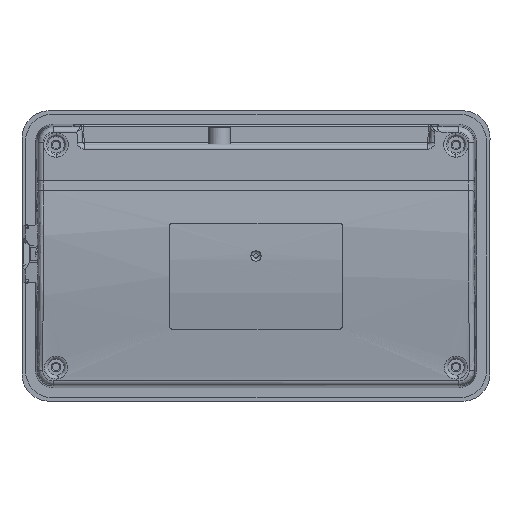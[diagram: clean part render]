
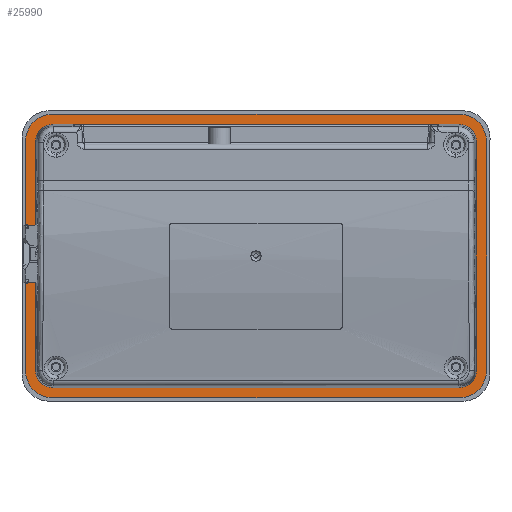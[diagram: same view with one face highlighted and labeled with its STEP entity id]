
A CAD part, front view. The second image highlights one B-rep face of the part: STEP entity #25990.
In plain terms, the highlighted planar face has unit normal (0, -1, 0).
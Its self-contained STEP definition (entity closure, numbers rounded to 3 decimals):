
#348 = EDGE_CURVE ( 'NONE', #1034, #67149, #38106, .T. ) ;
#371 = EDGE_LOOP ( 'NONE', ( #76666, #77568, #55639, #51432, #24178, #65036, #49874, #42457 ) ) ;
#920 = CARTESIAN_POINT ( 'NONE',  ( -61.652, 2.474, 103.5 ) ) ;
#1034 = VERTEX_POINT ( 'NONE', #4322 ) ;
#1400 = ORIENTED_EDGE ( 'NONE', *, *, #5206, .T. ) ;
#2476 = CIRCLE ( 'NONE', #22362, 5. ) ;
#3158 = ORIENTED_EDGE ( 'NONE', *, *, #47335, .T. ) ;
#3885 = VERTEX_POINT ( 'NONE', #920 ) ;
#4322 = CARTESIAN_POINT ( 'NONE',  ( -64.652, 2.474, 103.5 ) ) ;
#4904 = AXIS2_PLACEMENT_3D ( 'NONE', #59759, #71434, #34048 ) ;
#5206 = EDGE_CURVE ( 'NONE', #49535, #23498, #24500, .T. ) ;
#5906 = LINE ( 'NONE', #75243, #53228 ) ;
#8451 = CARTESIAN_POINT ( 'NONE',  ( 62.348, 2.474, 103.5 ) ) ;
#9698 = CARTESIAN_POINT ( 'NONE',  ( 70.348, 2.474, 170.5 ) ) ;
#9846 = CIRCLE ( 'NONE', #35029, 5. ) ;
#12529 = VERTEX_POINT ( 'NONE', #39465 ) ;
#14607 = CARTESIAN_POINT ( 'NONE',  ( -56.652, 2.474, 175.5 ) ) ;
#14895 = EDGE_CURVE ( 'NONE', #77889, #3885, #9846, .T. ) ;
#15632 = CIRCLE ( 'NONE', #20959, 5. ) ;
#15767 = PLANE ( 'NONE',  #4904 ) ;
#15988 = LINE ( 'NONE', #49149, #48602 ) ;
#16188 = DIRECTION ( 'NONE',  ( 0., 1., 0. ) ) ;
#17444 = CARTESIAN_POINT ( 'NONE',  ( -64.652, 2.474, 170.5 ) ) ;
#17863 = AXIS2_PLACEMENT_3D ( 'NONE', #47646, #29371, #61320 ) ;
#18557 = ORIENTED_EDGE ( 'NONE', *, *, #58798, .T. ) ;
#18994 = CARTESIAN_POINT ( 'NONE',  ( 70.348, 2.474, 103.5 ) ) ;
#19857 = CARTESIAN_POINT ( 'NONE',  ( 67.348, 2.474, 170.5 ) ) ;
#20959 = AXIS2_PLACEMENT_3D ( 'NONE', #8451, #66161, #27962 ) ;
#21688 = VERTEX_POINT ( 'NONE', #18994 ) ;
#22362 = AXIS2_PLACEMENT_3D ( 'NONE', #44396, #57264, #30730 ) ;
#22393 = VERTEX_POINT ( 'NONE', #68657 ) ;
#23246 = ORIENTED_EDGE ( 'NONE', *, *, #59410, .T. ) ;
#23498 = VERTEX_POINT ( 'NONE', #79027 ) ;
#24178 = ORIENTED_EDGE ( 'NONE', *, *, #28668, .F. ) ;
#24500 = LINE ( 'NONE', #49805, #67150 ) ;
#25990 = ADVANCED_FACE ( 'NONE', ( #46086, #52717 ), #15767, .T. ) ;
#26468 = CARTESIAN_POINT ( 'NONE',  ( -61.652, 2.474, 103.5 ) ) ;
#27592 = CARTESIAN_POINT ( 'NONE',  ( 62.348, 2.474, 170.5 ) ) ;
#27962 = DIRECTION ( 'NONE',  ( 1., 0., 0. ) ) ;
#27987 = DIRECTION ( 'NONE',  ( 1., 0., 0. ) ) ;
#28668 = EDGE_CURVE ( 'NONE', #41095, #43150, #42681, .T. ) ;
#28764 = LINE ( 'NONE', #36600, #40113 ) ;
#28899 = CIRCLE ( 'NONE', #32876, 8. ) ;
#29090 = CARTESIAN_POINT ( 'NONE',  ( -64.652, 2.474, 103.5 ) ) ;
#29371 = DIRECTION ( 'NONE',  ( 0., 1., 0. ) ) ;
#30730 = DIRECTION ( 'NONE',  ( -1., 0., 0. ) ) ;
#31766 = VERTEX_POINT ( 'NONE', #9698 ) ;
#31886 = CARTESIAN_POINT ( 'NONE',  ( -56.652, 2.474, 103.5 ) ) ;
#32728 = CARTESIAN_POINT ( 'NONE',  ( -56.652, 2.474, 170.5 ) ) ;
#32876 = AXIS2_PLACEMENT_3D ( 'NONE', #27592, #59520, #27987 ) ;
#33767 = CIRCLE ( 'NONE', #17863, 5. ) ;
#34048 = DIRECTION ( 'NONE',  ( 0., 0., -1. ) ) ;
#34497 = LINE ( 'NONE', #29090, #71868 ) ;
#34749 = CARTESIAN_POINT ( 'NONE',  ( 62.348, 2.474, 178.5 ) ) ;
#35029 = AXIS2_PLACEMENT_3D ( 'NONE', #52016, #16188, #77779 ) ;
#36600 = CARTESIAN_POINT ( 'NONE',  ( 62.348, 2.474, 98.5 ) ) ;
#37097 = VERTEX_POINT ( 'NONE', #54731 ) ;
#38106 = CIRCLE ( 'NONE', #54159, 8. ) ;
#38141 = DIRECTION ( 'NONE',  ( 0., 0., -1. ) ) ;
#38208 = CIRCLE ( 'NONE', #51411, 8. ) ;
#38869 = ORIENTED_EDGE ( 'NONE', *, *, #50911, .T. ) ;
#39111 = EDGE_CURVE ( 'NONE', #65865, #67149, #15988, .T. ) ;
#39465 = CARTESIAN_POINT ( 'NONE',  ( 67.348, 2.474, 103.5 ) ) ;
#40113 = VECTOR ( 'NONE', #60272, 1000. ) ;
#40122 = LINE ( 'NONE', #26468, #56901 ) ;
#40211 = AXIS2_PLACEMENT_3D ( 'NONE', #46057, #71801, #77592 ) ;
#40313 = EDGE_CURVE ( 'NONE', #31766, #43150, #28899, .T. ) ;
#41095 = VERTEX_POINT ( 'NONE', #63817 ) ;
#42457 = ORIENTED_EDGE ( 'NONE', *, *, #348, .T. ) ;
#42681 = LINE ( 'NONE', #43100, #55470 ) ;
#43100 = CARTESIAN_POINT ( 'NONE',  ( -56.652, 2.474, 178.5 ) ) ;
#43150 = VERTEX_POINT ( 'NONE', #34749 ) ;
#44061 = DIRECTION ( 'NONE',  ( 0., 0., -1. ) ) ;
#44089 = EDGE_CURVE ( 'NONE', #41095, #65985, #38208, .T. ) ;
#44172 = EDGE_CURVE ( 'NONE', #22393, #12529, #71743, .T. ) ;
#44315 = DIRECTION ( 'NONE',  ( -1., 0., 0. ) ) ;
#44396 = CARTESIAN_POINT ( 'NONE',  ( -56.652, 2.474, 170.5 ) ) ;
#46057 = CARTESIAN_POINT ( 'NONE',  ( 62.348, 2.474, 103.5 ) ) ;
#46071 = EDGE_CURVE ( 'NONE', #12529, #71212, #15632, .T. ) ;
#46086 = FACE_BOUND ( 'NONE', #64615, .T. ) ;
#47335 = EDGE_CURVE ( 'NONE', #23498, #22393, #33767, .T. ) ;
#47646 = CARTESIAN_POINT ( 'NONE',  ( 62.348, 2.474, 170.5 ) ) ;
#48602 = VECTOR ( 'NONE', #79892, 1000. ) ;
#49149 = CARTESIAN_POINT ( 'NONE',  ( 62.348, 2.474, 95.5 ) ) ;
#49535 = VERTEX_POINT ( 'NONE', #14607 ) ;
#49805 = CARTESIAN_POINT ( 'NONE',  ( -56.652, 2.474, 175.5 ) ) ;
#49874 = ORIENTED_EDGE ( 'NONE', *, *, #70208, .F. ) ;
#50911 = EDGE_CURVE ( 'NONE', #71212, #77889, #28764, .T. ) ;
#51411 = AXIS2_PLACEMENT_3D ( 'NONE', #32728, #64276, #71347 ) ;
#51432 = ORIENTED_EDGE ( 'NONE', *, *, #40313, .T. ) ;
#52016 = CARTESIAN_POINT ( 'NONE',  ( -56.652, 2.474, 103.5 ) ) ;
#52717 = FACE_OUTER_BOUND ( 'NONE', #371, .T. ) ;
#53043 = ORIENTED_EDGE ( 'NONE', *, *, #44172, .T. ) ;
#53228 = VECTOR ( 'NONE', #44061, 1000. ) ;
#53589 = CARTESIAN_POINT ( 'NONE',  ( 62.348, 2.474, 95.5 ) ) ;
#54082 = VECTOR ( 'NONE', #38141, 1000. ) ;
#54159 = AXIS2_PLACEMENT_3D ( 'NONE', #31886, #70477, #44315 ) ;
#54383 = DIRECTION ( 'NONE',  ( 0., 0., 1. ) ) ;
#54731 = CARTESIAN_POINT ( 'NONE',  ( -61.652, 2.474, 170.5 ) ) ;
#55470 = VECTOR ( 'NONE', #68025, 1000. ) ;
#55639 = ORIENTED_EDGE ( 'NONE', *, *, #69994, .F. ) ;
#56901 = VECTOR ( 'NONE', #70459, 1000. ) ;
#57264 = DIRECTION ( 'NONE',  ( 0., 1., 0. ) ) ;
#57666 = DIRECTION ( 'NONE',  ( 1., 0., 0. ) ) ;
#58481 = CARTESIAN_POINT ( 'NONE',  ( 62.348, 2.474, 98.5 ) ) ;
#58798 = EDGE_CURVE ( 'NONE', #37097, #49535, #2476, .T. ) ;
#59410 = EDGE_CURVE ( 'NONE', #3885, #37097, #40122, .T. ) ;
#59520 = DIRECTION ( 'NONE',  ( 0., -1., 0. ) ) ;
#59603 = CARTESIAN_POINT ( 'NONE',  ( -56.652, 2.474, 98.5 ) ) ;
#59759 = CARTESIAN_POINT ( 'NONE',  ( -56.652, 2.474, 170.5 ) ) ;
#60272 = DIRECTION ( 'NONE',  ( -1., 0., 0. ) ) ;
#61057 = ORIENTED_EDGE ( 'NONE', *, *, #14895, .T. ) ;
#61173 = ORIENTED_EDGE ( 'NONE', *, *, #46071, .T. ) ;
#61320 = DIRECTION ( 'NONE',  ( 0., 0., 1. ) ) ;
#63817 = CARTESIAN_POINT ( 'NONE',  ( -56.652, 2.474, 178.5 ) ) ;
#64276 = DIRECTION ( 'NONE',  ( 0., -1., 0. ) ) ;
#64615 = EDGE_LOOP ( 'NONE', ( #3158, #53043, #61173, #38869, #61057, #23246, #18557, #1400 ) ) ;
#65036 = ORIENTED_EDGE ( 'NONE', *, *, #44089, .T. ) ;
#65865 = VERTEX_POINT ( 'NONE', #53589 ) ;
#65985 = VERTEX_POINT ( 'NONE', #17444 ) ;
#66161 = DIRECTION ( 'NONE',  ( 0., 1., 0. ) ) ;
#66342 = EDGE_CURVE ( 'NONE', #65865, #21688, #76009, .T. ) ;
#67149 = VERTEX_POINT ( 'NONE', #79361 ) ;
#67150 = VECTOR ( 'NONE', #57666, 1000. ) ;
#68025 = DIRECTION ( 'NONE',  ( 1., 0., 0. ) ) ;
#68657 = CARTESIAN_POINT ( 'NONE',  ( 67.348, 2.474, 170.5 ) ) ;
#69994 = EDGE_CURVE ( 'NONE', #31766, #21688, #5906, .T. ) ;
#70208 = EDGE_CURVE ( 'NONE', #1034, #65985, #34497, .T. ) ;
#70459 = DIRECTION ( 'NONE',  ( 0., 0., 1. ) ) ;
#70477 = DIRECTION ( 'NONE',  ( 0., -1., 0. ) ) ;
#71212 = VERTEX_POINT ( 'NONE', #58481 ) ;
#71347 = DIRECTION ( 'NONE',  ( 0., 0., 1. ) ) ;
#71434 = DIRECTION ( 'NONE',  ( 0., -1., 0. ) ) ;
#71743 = LINE ( 'NONE', #19857, #54082 ) ;
#71801 = DIRECTION ( 'NONE',  ( 0., -1., 0. ) ) ;
#71868 = VECTOR ( 'NONE', #54383, 1000. ) ;
#75243 = CARTESIAN_POINT ( 'NONE',  ( 70.348, 2.474, 170.5 ) ) ;
#76009 = CIRCLE ( 'NONE', #40211, 8. ) ;
#76666 = ORIENTED_EDGE ( 'NONE', *, *, #39111, .F. ) ;
#77568 = ORIENTED_EDGE ( 'NONE', *, *, #66342, .T. ) ;
#77592 = DIRECTION ( 'NONE',  ( 0., 0., -1. ) ) ;
#77779 = DIRECTION ( 'NONE',  ( 0., 0., -1. ) ) ;
#77889 = VERTEX_POINT ( 'NONE', #59603 ) ;
#79027 = CARTESIAN_POINT ( 'NONE',  ( 62.348, 2.474, 175.5 ) ) ;
#79361 = CARTESIAN_POINT ( 'NONE',  ( -56.652, 2.474, 95.5 ) ) ;
#79892 = DIRECTION ( 'NONE',  ( -1., 0., 0. ) ) ;
